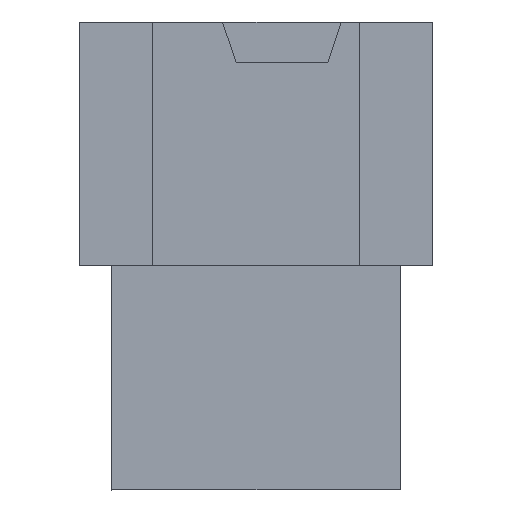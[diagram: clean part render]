
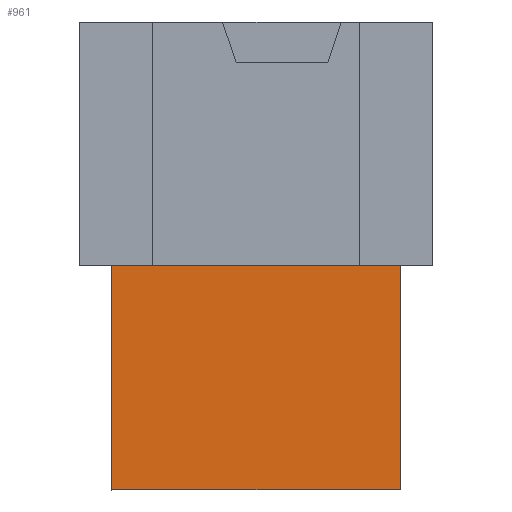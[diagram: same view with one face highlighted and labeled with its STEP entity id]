
A CAD part, top view. The second image highlights one B-rep face of the part: STEP entity #961.
In plain terms, the highlighted planar face has unit normal (0, 0, 1).
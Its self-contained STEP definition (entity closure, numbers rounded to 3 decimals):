
#934=AXIS2_PLACEMENT_3D('Plane Axis2P3D',#931,#932,#933) ;
#342=CARTESIAN_POINT('Line Origine',(0.,-1.8,7.5)) ;
#346=CARTESIAN_POINT('Vertex',(10.55,-1.8,7.5)) ;
#348=CARTESIAN_POINT('Vertex',(-10.55,-1.8,7.5)) ;
#931=CARTESIAN_POINT('Axis2P3D Location',(10.972,-1.471,7.5)) ;
#936=CARTESIAN_POINT('Line Origine',(-10.55,-10.025,7.5)) ;
#940=CARTESIAN_POINT('Vertex',(-10.55,-18.25,7.5)) ;
#943=CARTESIAN_POINT('Line Origine',(0.,-18.25,7.5)) ;
#947=CARTESIAN_POINT('Vertex',(10.55,-18.25,7.5)) ;
#950=CARTESIAN_POINT('Line Origine',(10.55,-10.025,7.5)) ;
#343=DIRECTION('Vector Direction',(-1.,0.,0.)) ;
#932=DIRECTION('Axis2P3D Direction',(0.,0.,1.)) ;
#933=DIRECTION('Axis2P3D XDirection',(-1.,0.,0.)) ;
#937=DIRECTION('Vector Direction',(0.,1.,0.)) ;
#944=DIRECTION('Vector Direction',(1.,0.,0.)) ;
#951=DIRECTION('Vector Direction',(0.,1.,0.)) ;
#344=VECTOR('Line Direction',#343,1.) ;
#938=VECTOR('Line Direction',#937,1.) ;
#945=VECTOR('Line Direction',#944,1.) ;
#952=VECTOR('Line Direction',#951,1.) ;
#956=ORIENTED_EDGE('',*,*,#942,.F.) ;
#957=ORIENTED_EDGE('',*,*,#949,.T.) ;
#958=ORIENTED_EDGE('',*,*,#954,.T.) ;
#959=ORIENTED_EDGE('',*,*,#350,.T.) ;
#961=ADVANCED_FACE('R3',(#960),#935,.T.) ;
#350=EDGE_CURVE('',#347,#349,#345,.T.) ;
#942=EDGE_CURVE('',#941,#349,#939,.T.) ;
#949=EDGE_CURVE('',#941,#948,#946,.T.) ;
#954=EDGE_CURVE('',#948,#347,#953,.T.) ;
#955=EDGE_LOOP('',(#956,#957,#958,#959)) ;
#960=FACE_OUTER_BOUND('',#955,.T.) ;
#345=LINE('Line',#342,#344) ;
#939=LINE('Line',#936,#938) ;
#946=LINE('Line',#943,#945) ;
#953=LINE('Line',#950,#952) ;
#935=PLANE('',#934) ;
#347=VERTEX_POINT('',#346) ;
#349=VERTEX_POINT('',#348) ;
#941=VERTEX_POINT('',#940) ;
#948=VERTEX_POINT('',#947) ;
